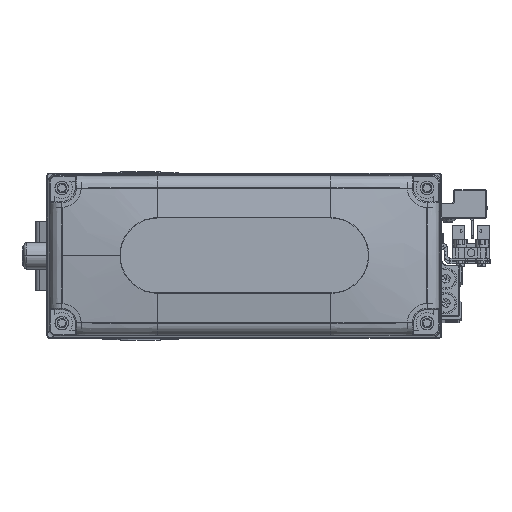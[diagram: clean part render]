
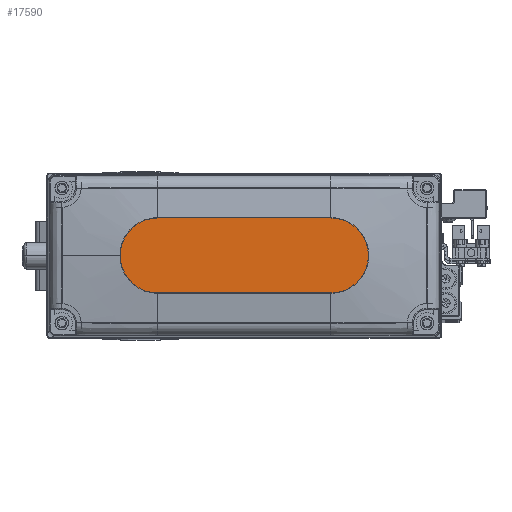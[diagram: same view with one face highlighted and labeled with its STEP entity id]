
A CAD part, top view. The second image highlights one B-rep face of the part: STEP entity #17590.
In plain terms, the highlighted planar face has unit normal (0, 0, 1).
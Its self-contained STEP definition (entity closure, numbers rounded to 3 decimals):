
#1262 = CARTESIAN_POINT ( 'NONE',  ( -32., 14., 35. ) ) ;
#2159 = ORIENTED_EDGE ( 'NONE', *, *, #21777, .T. ) ;
#2581 = CARTESIAN_POINT ( 'NONE',  ( 0., 0., 35. ) ) ;
#4730 = CARTESIAN_POINT ( 'NONE',  ( 32., 0., 35. ) ) ;
#5668 = EDGE_CURVE ( 'NONE', #12879, #9827, #5728, .T. ) ;
#5728 = LINE ( 'NONE', #20040, #28483 ) ;
#6498 = EDGE_CURVE ( 'NONE', #27419, #12879, #44540, .T. ) ;
#6593 = AXIS2_PLACEMENT_3D ( 'NONE', #4730, #19032, #33354 ) ;
#6785 = CARTESIAN_POINT ( 'NONE',  ( 32., -14., 35. ) ) ;
#7105 = CARTESIAN_POINT ( 'NONE',  ( -32., 14., 35. ) ) ;
#7780 = CIRCLE ( 'NONE', #34020, 14. ) ;
#8982 = CARTESIAN_POINT ( 'NONE',  ( 46., 0., 35. ) ) ;
#9827 = VERTEX_POINT ( 'NONE', #6785 ) ;
#10029 = DIRECTION ( 'NONE',  ( 0., 0., 1. ) ) ;
#10201 = AXIS2_PLACEMENT_3D ( 'NONE', #2581, #16883, #31206 ) ;
#10348 = DIRECTION ( 'NONE',  ( 1., 0., 0. ) ) ;
#12879 = VERTEX_POINT ( 'NONE', #36669 ) ;
#16883 = DIRECTION ( 'NONE',  ( 0., 0., 1. ) ) ;
#17590 = ADVANCED_FACE ( 'NONE', ( #20420 ), #34744, .T. ) ;
#18600 = VECTOR ( 'NONE', #21430, 1000. ) ;
#19032 = DIRECTION ( 'NONE',  ( 0., 0., 1. ) ) ;
#20040 = CARTESIAN_POINT ( 'NONE',  ( -32., -14., 35. ) ) ;
#20420 = FACE_OUTER_BOUND ( 'NONE', #33270, .T. ) ;
#21430 = DIRECTION ( 'NONE',  ( -1., 0., 0. ) ) ;
#21777 = EDGE_CURVE ( 'NONE', #34164, #27419, #39293, .T. ) ;
#24277 = AXIS2_PLACEMENT_3D ( 'NONE', #42191, #10029, #24337 ) ;
#24337 = DIRECTION ( 'NONE',  ( 1., 0., 0. ) ) ;
#26817 = CIRCLE ( 'NONE', #6593, 14. ) ;
#27419 = VERTEX_POINT ( 'NONE', #1262 ) ;
#28166 = CARTESIAN_POINT ( 'NONE',  ( 32., 0., 35. ) ) ;
#28483 = VECTOR ( 'NONE', #34372, 1000. ) ;
#29688 = ORIENTED_EDGE ( 'NONE', *, *, #5668, .T. ) ;
#30090 = EDGE_CURVE ( 'NONE', #33135, #34164, #26817, .T. ) ;
#31206 = DIRECTION ( 'NONE',  ( 1., 0., 0. ) ) ;
#32487 = ORIENTED_EDGE ( 'NONE', *, *, #6498, .T. ) ;
#33135 = VERTEX_POINT ( 'NONE', #8982 ) ;
#33270 = EDGE_LOOP ( 'NONE', ( #2159, #32487, #29688, #43221, #35250 ) ) ;
#33354 = DIRECTION ( 'NONE',  ( 1., 0., 0. ) ) ;
#34020 = AXIS2_PLACEMENT_3D ( 'NONE', #28166, #42511, #10348 ) ;
#34164 = VERTEX_POINT ( 'NONE', #35850 ) ;
#34372 = DIRECTION ( 'NONE',  ( 1., 0., 0. ) ) ;
#34744 = PLANE ( 'NONE',  #10201 ) ;
#35250 = ORIENTED_EDGE ( 'NONE', *, *, #30090, .T. ) ;
#35850 = CARTESIAN_POINT ( 'NONE',  ( 32., 14., 35. ) ) ;
#36669 = CARTESIAN_POINT ( 'NONE',  ( -32., -14., 35. ) ) ;
#36794 = EDGE_CURVE ( 'NONE', #9827, #33135, #7780, .T. ) ;
#39293 = LINE ( 'NONE', #7105, #18600 ) ;
#42191 = CARTESIAN_POINT ( 'NONE',  ( -32., 0., 35. ) ) ;
#42511 = DIRECTION ( 'NONE',  ( 0., 0., 1. ) ) ;
#43221 = ORIENTED_EDGE ( 'NONE', *, *, #36794, .T. ) ;
#44540 = CIRCLE ( 'NONE', #24277, 14. ) ;
